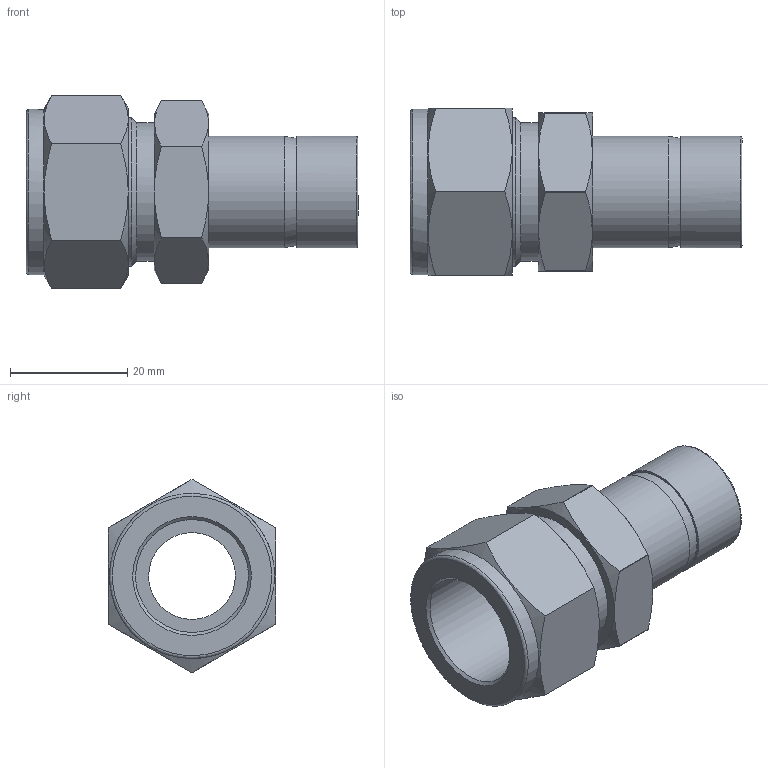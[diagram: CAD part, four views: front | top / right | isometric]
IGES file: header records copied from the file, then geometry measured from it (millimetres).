
Global section: file name: SR-12-12; native system: Autodesk Inventor 2016; preprocessor: unknown; author: DESIGNPC2; date: 20151113.083918; units: millimetre
Bounding box: 56.69 x 28.57 x 33 mm (x, y, z)
Volume: 14787.6 mm3; surface area: 8628.8 mm2
Topology: 1 solids, 1 shells, 41 faces, 118 edges, 84 vertices
Faces by surface type: bspline 41
